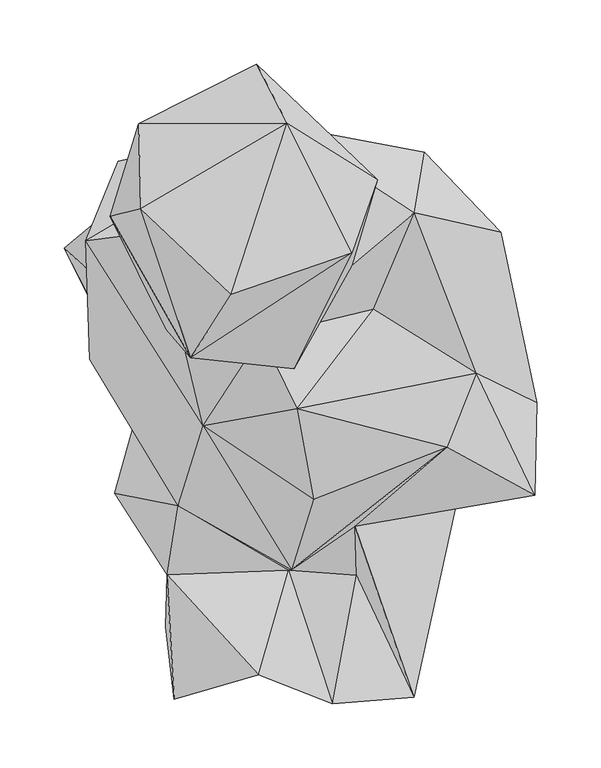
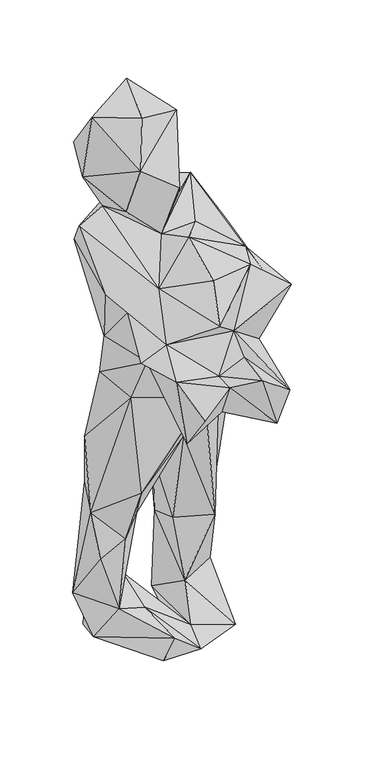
"""IFC4 building model written with IfcOpenShell, lengths in millimetres: geographic element geometry, Enscape AssetDefinition - Jasper 001 Standing : Enscape AssetDefinition - Jasper 001 Standing."""

from ifc_helpers import new_model, si_unit, origin, place, context, project, spatial, triangles, source, transform, mapped, element, save


def geographic_element_8676af7e(model_context):
    return source(origin(), model_context, "Body", "Tessellation", [
        triangles([(-153.1410158, -76.9189968, 741.8079912), (-103.1759969, -86.4860001, 773.1329687), (-124.339994, 25.0000002, 787.682008), (-98.1030054, -4.3270001, 681.094982), (-172.2889931, 27.6090002, 844.782011), (-150.1699944, 182.1299985, 870.5709892), (-175.5829963, 120.3920064, 947.8100246), (-146.4450037, 92.4760051, 617.5530029), (-137.3250026, 91.5979973, 698.1949556), (-22.7470014, 210.6010078, 960.2509804), (43.5909984, 165.0750076, 676.967981), (-93.7299983, 151.0169994, 666.3439928), (-120.0330076, 127.373993, 970.2590178), (-38.0720016, 45.63, 926.3229641), (-134.1910097, 211.6059973, 1072.6230457), (-132.5599955, 145.2009936, 1168.4310785), (-156.6330083, 139.4899959, 1042.6599764), (-12.9380002, 20.1040009, 1039.6850126), (-112.8309945, 50.9769983, 1000.4849344), (-93.6849974, 28.9789997, 1101.3850256), (-61.8940009, 78.3530027, 1182.4940283), (-18.103, 211.7489937, 1178.8510094), (52.3309991, 167.8529994, 1036.2000509), (-42.1369992, 258.181988, 1074.1260063), (32.3910007, 110.9650019, 1148.6790138), (32.676998, 101.066996, 966.0549866), (81.3739938, 141.941, 968.6840412), (49.1160018, 66.7030007, 911.9829964), (129.7329969, 16.953999, 857.044998), (-10.4739996, -10.965, 943.7170332), (176.7829957, -6.0950001, 769.2560251), (148.7389953, 126.8599892, 848.9579916), (80.9629996, 46.6150008, 778.3599752), (175.4770071, -78.3459991, 809.8390131), (123.250998, -44.1099983, 682.3209972), (106.5220046, -41.1989978, 857.8420424), (2.413, -81.7719982, 881.2739697), (-83.9629982, -24.3689999, 857.5699659), (-14.9210006, -136.7199978, 814.4279772), (34.9779976, -102.561, 766.1669695), (35.918002, -141.0779985, 728.5909927), (-17.2269997, -136.8789997, 700.0390291), (60.5899971, -222.0260008, 616.6119993), (80.8910018, -236.0409884, 695.347019), (17.2750005, -241.3239872, 741.4660063), (-106.4409957, -237.7499866, 689.3329966), (-40.545999, -218.7099968, 731.4530273), (-112.086, -140.4149939, 721.6260109), (-112.9749991, -181.2799959, 605.3579988), (-18.5909994, -150.5660004, 627.1830111), (-66.0589993, -79.0360006, 600.0639905), (50.3450011, -113.9880005, 606.8900273), (-102.401998, 168.8239975, 419.8830191), (-120.7059952, 17.3669995, 593.3449965), (-166.366989, 91.1359978, 298.759017), (-168.4609928, 111.1769984, 464.4689967), (-117.3890011, 43.5180014, 249.9569994), (-97.1219969, 18.4080004, 364.346002), (25.6579996, -8.6009995, 557.9969725), (-163.4949986, 58.773997, 209.8030005), (-192.5599942, 114.6330011, 109.0150028), (-143.4330055, 155.1890013, 325.0349931), (-74.4680018, 44.4290014, 76.0150049), (-132.6380068, 41.9079979, 95.0689972), (-56.9849983, 107.1470027, 250.5750031), (-148.5120015, 146.4630077, 62.7309956), (-170.8869893, 72.0669992, 25.5489992), (-56.4020033, -37.6189974, 48.4140007), (-78.7340023, -32.0460023, 0.0), (0.298, -38.4229999, 4.836), (4.8300002, 7.032, 31.069999), (-149.648996, 149.1120012, 0.0), (27.2510006, 185.3760032, 0.0), (-14.7609994, 42.7399966, 9.6200001), (-2.413, 144.0390005, 40.9369998), (100.1679956, 4.3790001, 0.0), (105.4479967, 155.2889952, 0.0), (26.4320008, 68.111999, 89.0400048), (112.2259987, 120.8199963, 80.6349946), (44.3469979, 172.9820104, 323.0549904), (-5.9679996, 127.3699962, 227.4529952), (-0.097, 27.9300017, 457.3859988), (6.3669999, 77.7190025, 236.5359982), (-26.0660007, 99.4320031, 381.3969961), (69.6759978, 11.2449997, 614.3360481), (79.5420017, 46.9320009, 235.9240079), (116.0610026, 112.5650042, 256.8880081), (123.9679964, 72.0369956, 490.0909793), (89.2720037, 189.3579912, 852.4220243), (107.152998, 78.9430012, 665.684004), (46.4640016, 191.9209888, 619.038014), (91.9549976, 163.9300012, 277.1419862), (48.6610014, 184.5850086, 84.4440008), (-28.9810004, 215.7160117, 540.1620146), (102.7119991, 145.7020077, 422.0059999), (-4.8590001, 158.0270003, 416.5149834), (-86.9650043, 172.0180068, 276.3350042), (-74.3120021, 126.5139983, 104.6450025), (-82.4349937, 153.9650026, 6.1529998)], [[93, 79, 77], [12, 11, 91], [66, 98, 99], [97, 65, 98], [97, 66, 62], [97, 98, 66], [53, 97, 62], [12, 91, 94], [94, 96, 53], [95, 80, 96], [91, 95, 94], [94, 95, 96], [93, 92, 79], [80, 95, 92], [92, 93, 80], [87, 79, 92], [87, 86, 79], [95, 88, 92], [92, 88, 87], [91, 88, 95], [88, 91, 90], [89, 90, 11], [11, 90, 91], [89, 33, 90], [90, 85, 88], [33, 85, 90], [85, 87, 88], [85, 86, 87], [85, 33, 35], [59, 86, 85], [35, 59, 85], [59, 82, 86], [53, 84, 97], [84, 82, 65], [84, 53, 96], [97, 84, 65], [82, 84, 83], [82, 83, 86], [81, 83, 84], [81, 80, 93], [80, 81, 96], [96, 81, 84], [86, 83, 78], [86, 78, 79], [83, 81, 78], [78, 81, 75], [93, 75, 81], [93, 77, 73], [93, 73, 75], [73, 77, 76], [79, 78, 76], [77, 79, 76], [71, 99, 98], [78, 71, 76], [75, 71, 78], [75, 74, 71], [75, 73, 74], [74, 99, 71], [66, 99, 72], [99, 74, 72], [72, 74, 69], [76, 70, 73], [76, 71, 70], [74, 73, 70], [70, 69, 74], [71, 63, 70], [63, 71, 98], [63, 68, 70], [68, 69, 70], [72, 69, 67], [68, 67, 69], [66, 72, 67], [98, 65, 64], [98, 64, 63], [63, 64, 68], [67, 68, 64], [61, 62, 66], [66, 67, 61], [61, 67, 64], [64, 60, 61], [65, 57, 64], [60, 64, 57], [59, 58, 82], [82, 58, 65], [57, 65, 58], [61, 60, 55], [58, 55, 57], [62, 61, 55], [60, 57, 55], [56, 53, 62], [62, 55, 56], [54, 58, 59], [58, 54, 55], [56, 55, 54], [8, 12, 94], [8, 94, 53], [8, 53, 56], [8, 56, 54], [54, 59, 4], [8, 54, 4], [4, 59, 51], [51, 59, 52], [59, 35, 52], [35, 43, 52], [52, 43, 50], [50, 51, 52], [50, 49, 51], [4, 51, 49], [49, 48, 4], [48, 49, 46], [47, 50, 43], [49, 50, 47], [46, 49, 47], [47, 48, 46], [45, 47, 43], [35, 44, 43], [45, 43, 44], [41, 45, 44], [42, 47, 45], [42, 45, 41], [42, 48, 47], [2, 48, 42], [40, 41, 44], [40, 42, 41], [35, 40, 44], [2, 42, 40], [39, 2, 40], [2, 39, 38], [38, 39, 37], [37, 30, 38], [36, 39, 40], [37, 36, 30], [36, 37, 39], [36, 40, 34], [34, 40, 35], [33, 31, 35], [35, 31, 34], [32, 33, 89], [31, 33, 32], [36, 29, 30], [29, 34, 31], [32, 29, 31], [29, 36, 34], [29, 28, 30], [38, 30, 14], [28, 14, 30], [32, 27, 29], [28, 29, 27], [27, 14, 28], [27, 32, 89], [10, 27, 89], [89, 11, 10], [27, 10, 26], [26, 14, 27], [18, 14, 26], [10, 23, 26], [25, 18, 23], [26, 23, 18], [24, 23, 10], [22, 25, 23], [22, 23, 24], [22, 21, 25], [22, 16, 21], [25, 20, 18], [21, 20, 25], [20, 21, 16], [20, 19, 18], [18, 19, 14], [16, 17, 20], [17, 19, 20], [22, 15, 16], [16, 15, 17], [24, 10, 15], [22, 24, 15], [13, 14, 19], [15, 10, 13], [13, 19, 17], [15, 13, 17], [14, 13, 38], [7, 13, 10], [13, 7, 38], [10, 11, 6], [11, 12, 6], [6, 7, 10], [6, 12, 9], [12, 8, 9], [8, 4, 9], [6, 9, 5], [6, 5, 7], [2, 38, 5], [7, 5, 38], [9, 3, 5], [9, 4, 3], [3, 2, 5], [3, 4, 1], [1, 4, 48], [3, 1, 2], [1, 48, 2]]),
    ])


if __name__ == "__main__":
    model = new_model("IFC4")
    model_context = context("Model", 3, world=origin())
    ifc_project = project(units=[si_unit("LENGTHUNIT", "METRE", prefix="MILLI")], contexts=[model_context])
    site = spatial("IfcSite", under=ifc_project)
    building = spatial("IfcBuilding", under=site)
    placement = place(None, origin())
    geographic_element_shape = geographic_element_8676af7e(model_context)
    element("IfcGeographicElement", 1, ObjectType="Enscape AssetDefinition - Jasper 001 Standing : Enscape AssetDefinition - Jasper 001 Standing", at=placement, inside=building, context=model_context, shape_type="MappedRepresentation", body=[
        mapped(geographic_element_shape, transform((0.0, 0.0, 0.0), x_axis=(1.0, 0.0, 0.0), y_axis=(0.0, 1.0, 0.0), z_axis=(0.0, 0.0, 1.0))),
    ])
    save(model, "model.ifc")
